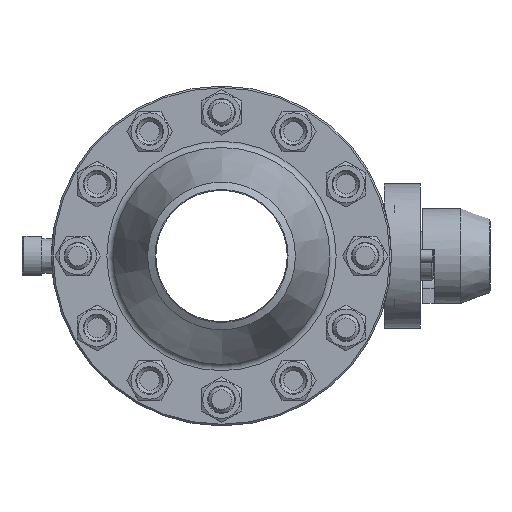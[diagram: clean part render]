
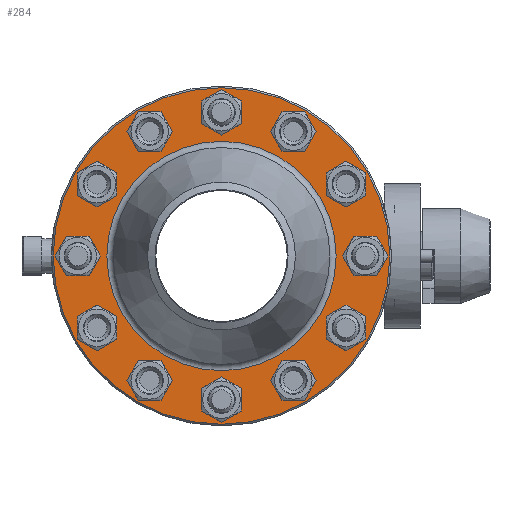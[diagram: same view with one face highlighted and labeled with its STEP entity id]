
A CAD part, left-side view. The second image highlights one B-rep face of the part: STEP entity #284.
In plain terms, the highlighted planar face has unit normal (-1, 0, 0).
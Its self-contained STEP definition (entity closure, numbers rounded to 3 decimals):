
#284=ADVANCED_FACE('',(#5069,#5071,#5073,#5075,#5077,#5079,#5081,#5083,#5085,#5087,
#5089,#5091,#5093,#5095),#5097,.T.);
#5069=FACE_BOUND('',#5070,.T.);
#5070=EDGE_LOOP('',(#9554));
#5071=FACE_BOUND('',#5072,.T.);
#5072=EDGE_LOOP('',(#9555));
#5073=FACE_BOUND('',#5074,.T.);
#5074=EDGE_LOOP('',(#9556));
#5075=FACE_BOUND('',#5076,.T.);
#5076=EDGE_LOOP('',(#9557));
#5077=FACE_BOUND('',#5078,.T.);
#5078=EDGE_LOOP('',(#9558));
#5079=FACE_BOUND('',#5080,.T.);
#5080=EDGE_LOOP('',(#9559));
#5081=FACE_BOUND('',#5082,.T.);
#5082=EDGE_LOOP('',(#9560));
#5083=FACE_BOUND('',#5084,.T.);
#5084=EDGE_LOOP('',(#9561));
#5085=FACE_BOUND('',#5086,.T.);
#5086=EDGE_LOOP('',(#9562));
#5087=FACE_BOUND('',#5088,.T.);
#5088=EDGE_LOOP('',(#9563));
#5089=FACE_BOUND('',#5090,.T.);
#5090=EDGE_LOOP('',(#9564));
#5091=FACE_BOUND('',#5092,.T.);
#5092=EDGE_LOOP('',(#9565));
#5093=FACE_BOUND('',#5094,.T.);
#5094=EDGE_LOOP('',(#9566));
#5095=FACE_OUTER_BOUND('',#5096,.T.);
#5096=EDGE_LOOP('',(#9567));
#5097=PLANE('',#5098);
#5098=AXIS2_PLACEMENT_3D('',#5099,#5100,#5101);
#5099=CARTESIAN_POINT('',(-87.5,0.,0.));
#5100=DIRECTION('',(-1.,-0.,-0.));
#5101=DIRECTION('',(0.,0.,-1.));
#9554=ORIENTED_EDGE('',*,*,#13635,.T.);
#9555=ORIENTED_EDGE('',*,*,#13636,.T.);
#9556=ORIENTED_EDGE('',*,*,#13637,.T.);
#9557=ORIENTED_EDGE('',*,*,#13638,.T.);
#9558=ORIENTED_EDGE('',*,*,#13639,.T.);
#9559=ORIENTED_EDGE('',*,*,#13640,.T.);
#9560=ORIENTED_EDGE('',*,*,#13641,.T.);
#9561=ORIENTED_EDGE('',*,*,#13642,.T.);
#9562=ORIENTED_EDGE('',*,*,#13643,.T.);
#9563=ORIENTED_EDGE('',*,*,#13644,.T.);
#9564=ORIENTED_EDGE('',*,*,#13645,.T.);
#9565=ORIENTED_EDGE('',*,*,#13646,.T.);
#9566=ORIENTED_EDGE('',*,*,#13647,.T.);
#9567=ORIENTED_EDGE('',*,*,#13579,.F.);
#13579=EDGE_CURVE('',#15142,#15142,#15144,.T.);
#13635=EDGE_CURVE('',#15231,#15231,#15232,.F.);
#13636=EDGE_CURVE('',#15233,#15233,#15234,.F.);
#13637=EDGE_CURVE('',#15235,#15235,#15236,.F.);
#13638=EDGE_CURVE('',#15237,#15237,#15238,.F.);
#13639=EDGE_CURVE('',#15239,#15239,#15240,.F.);
#13640=EDGE_CURVE('',#15241,#15241,#15242,.F.);
#13641=EDGE_CURVE('',#15243,#15243,#15244,.T.);
#13642=EDGE_CURVE('',#15245,#15245,#15246,.F.);
#13643=EDGE_CURVE('',#15247,#15247,#15248,.F.);
#13644=EDGE_CURVE('',#15249,#15249,#15250,.F.);
#13645=EDGE_CURVE('',#15251,#15251,#15252,.F.);
#13646=EDGE_CURVE('',#15253,#15253,#15254,.F.);
#13647=EDGE_CURVE('',#15255,#15255,#15256,.F.);
#15142=VERTEX_POINT('',#25301);
#15144=CIRCLE('',#25305,102.5);
#15231=VERTEX_POINT('',#25616);
#15232=CIRCLE('',#25617,11.4);
#15233=VERTEX_POINT('',#25621);
#15234=CIRCLE('',#25622,11.4);
#15235=VERTEX_POINT('',#25626);
#15236=CIRCLE('',#25627,11.4);
#15237=VERTEX_POINT('',#25631);
#15238=CIRCLE('',#25632,11.4);
#15239=VERTEX_POINT('',#25636);
#15240=CIRCLE('',#25637,11.4);
#15241=VERTEX_POINT('',#25641);
#15242=CIRCLE('',#25642,11.4);
#15243=VERTEX_POINT('',#25646);
#15244=CIRCLE('',#25647,69.821);
#15245=VERTEX_POINT('',#25651);
#15246=CIRCLE('',#25652,11.4);
#15247=VERTEX_POINT('',#25656);
#15248=CIRCLE('',#25657,11.4);
#15249=VERTEX_POINT('',#25661);
#15250=CIRCLE('',#25662,11.4);
#15251=VERTEX_POINT('',#25666);
#15252=CIRCLE('',#25667,11.4);
#15253=VERTEX_POINT('',#25671);
#15254=CIRCLE('',#25672,11.4);
#15255=VERTEX_POINT('',#25676);
#15256=CIRCLE('',#25677,11.4);
#25301=CARTESIAN_POINT('',(-87.5,0.,-102.5));
#25305=AXIS2_PLACEMENT_3D('',#25306,#25307,#25308);
#25306=CARTESIAN_POINT('',(-87.5,0.,0.));
#25307=DIRECTION('',(1.,0.,0.));
#25308=DIRECTION('',(0.,0.,-1.));
#25616=CARTESIAN_POINT('',(-87.5,-38.05,-65.905));
#25617=AXIS2_PLACEMENT_3D('',#25618,#25619,#25620);
#25618=CARTESIAN_POINT('',(-87.5,-43.75,-75.777));
#25619=DIRECTION('',(-1.,-0.,-0.));
#25620=DIRECTION('',(-0.,0.5,0.866));
#25621=CARTESIAN_POINT('',(-87.5,38.05,-65.905));
#25622=AXIS2_PLACEMENT_3D('',#25623,#25624,#25625);
#25623=CARTESIAN_POINT('',(-87.5,43.75,-75.777));
#25624=DIRECTION('',(-1.,-0.,-0.));
#25625=DIRECTION('',(0.,-0.5,0.866));
#25626=CARTESIAN_POINT('',(-87.5,76.1,0.));
#25627=AXIS2_PLACEMENT_3D('',#25628,#25629,#25630);
#25628=CARTESIAN_POINT('',(-87.5,87.5,0.));
#25629=DIRECTION('',(-1.,-0.,-0.));
#25630=DIRECTION('',(0.,-1.,0.));
#25631=CARTESIAN_POINT('',(-87.5,38.05,65.905));
#25632=AXIS2_PLACEMENT_3D('',#25633,#25634,#25635);
#25633=CARTESIAN_POINT('',(-87.5,43.75,75.777));
#25634=DIRECTION('',(-1.,-0.,-0.));
#25635=DIRECTION('',(0.,-0.5,-0.866));
#25636=CARTESIAN_POINT('',(-87.5,-38.05,65.905));
#25637=AXIS2_PLACEMENT_3D('',#25638,#25639,#25640);
#25638=CARTESIAN_POINT('',(-87.5,-43.75,75.777));
#25639=DIRECTION('',(-1.,-0.,-0.));
#25640=DIRECTION('',(0.,0.5,-0.866));
#25641=CARTESIAN_POINT('',(-87.5,-76.1,0.));
#25642=AXIS2_PLACEMENT_3D('',#25643,#25644,#25645);
#25643=CARTESIAN_POINT('',(-87.5,-87.5,0.));
#25644=DIRECTION('',(-1.,-0.,-0.));
#25645=DIRECTION('',(0.,1.,-0.));
#25646=CARTESIAN_POINT('',(-87.5,0.,-69.821));
#25647=AXIS2_PLACEMENT_3D('',#25648,#25649,#25650);
#25648=CARTESIAN_POINT('',(-87.5,0.,0.));
#25649=DIRECTION('',(1.,0.,0.));
#25650=DIRECTION('',(0.,0.,-1.));
#25651=CARTESIAN_POINT('',(-87.5,-65.905,38.05));
#25652=AXIS2_PLACEMENT_3D('',#25653,#25654,#25655);
#25653=CARTESIAN_POINT('',(-87.5,-75.777,43.75));
#25654=DIRECTION('',(-1.,-0.,-0.));
#25655=DIRECTION('',(0.,0.866,-0.5));
#25656=CARTESIAN_POINT('',(-87.5,0.,76.1));
#25657=AXIS2_PLACEMENT_3D('',#25658,#25659,#25660);
#25658=CARTESIAN_POINT('',(-87.5,0.,87.5));
#25659=DIRECTION('',(-1.,-0.,-0.));
#25660=DIRECTION('',(0.,0.,-1.));
#25661=CARTESIAN_POINT('',(-87.5,65.905,38.05));
#25662=AXIS2_PLACEMENT_3D('',#25663,#25664,#25665);
#25663=CARTESIAN_POINT('',(-87.5,75.777,43.75));
#25664=DIRECTION('',(-1.,-0.,-0.));
#25665=DIRECTION('',(0.,-0.866,-0.5));
#25666=CARTESIAN_POINT('',(-87.5,65.905,-38.05));
#25667=AXIS2_PLACEMENT_3D('',#25668,#25669,#25670);
#25668=CARTESIAN_POINT('',(-87.5,75.777,-43.75));
#25669=DIRECTION('',(-1.,-0.,-0.));
#25670=DIRECTION('',(0.,-0.866,0.5));
#25671=CARTESIAN_POINT('',(-87.5,0.,-76.1));
#25672=AXIS2_PLACEMENT_3D('',#25673,#25674,#25675);
#25673=CARTESIAN_POINT('',(-87.5,0.,-87.5));
#25674=DIRECTION('',(-1.,-0.,-0.));
#25675=DIRECTION('',(0.,-0.,1.));
#25676=CARTESIAN_POINT('',(-87.5,-65.905,-38.05));
#25677=AXIS2_PLACEMENT_3D('',#25678,#25679,#25680);
#25678=CARTESIAN_POINT('',(-87.5,-75.777,-43.75));
#25679=DIRECTION('',(-1.,-0.,-0.));
#25680=DIRECTION('',(-0.,0.866,0.5));
